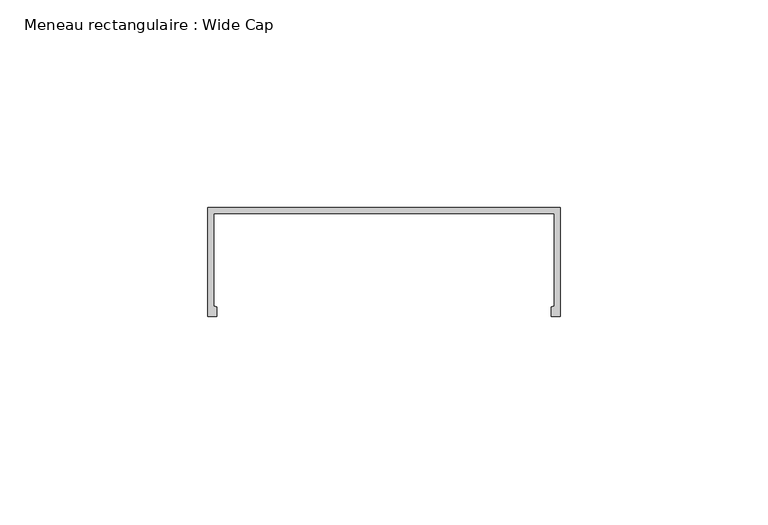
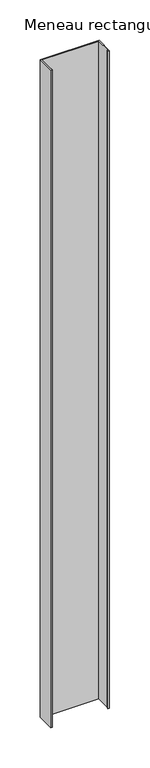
"""IFC4 building model written with IfcOpenShell, lengths in millimetres: member geometry, Meneau rectangulaire : Wide Cap."""

from ifc_helpers import new_model, si_unit, frame, origin, place, context, project, spatial, polyline, outline, extrude, source, transform, mapped, element, save


def meneau_rectangulaire_wide_cap_ee525d8e(model_context):
    return source(origin(), model_context, "Body", "SweptSolid", [
        extrude(outline(polyline([(-84.6230145, 32.1007192), (0.0, 32.1007192), (0.0, 6.0), (-2.149007, 6.0), (-2.149007, 8.2419727), (-1.4, 8.4826662), (-1.4, 30.7007192), (-83.2230145, 30.7007192), (-83.2230145, 8.4826662), (-82.4740075, 8.2419727), (-82.4740075, 6.0), (-84.6230145, 6.0), (-84.6230145, 32.1007192)])), frame((0.0, 0.0, -1000.0), z_axis=(0.0, 0.0, 1.0), x_axis=(1.0, 0.0, 0.0)), (0.0, 0.0, 1.0), 1000.0),
    ])


if __name__ == "__main__":
    model = new_model("IFC4")
    model_context = context("Model", 3, world=origin())
    ifc_project = project(units=[si_unit("LENGTHUNIT", "METRE", prefix="MILLI")], contexts=[model_context])
    site = spatial("IfcSite", under=ifc_project)
    building = spatial("IfcBuilding", under=site)
    placement = place(None, origin())
    meneau_rectangulaire_wide_cap_shape = meneau_rectangulaire_wide_cap_ee525d8e(model_context)
    element("IfcMember", 1, ObjectType="Meneau rectangulaire : Wide Cap", at=placement, inside=building, context=model_context, shape_type="MappedRepresentation", body=[
        mapped(meneau_rectangulaire_wide_cap_shape, transform((0.0, 0.0, 0.0), x_axis=(1.0, 0.0, 0.0), y_axis=(0.0, 1.0, 0.0), z_axis=(0.0, 0.0, 1.0))),
    ])
    save(model, "model.ifc")
